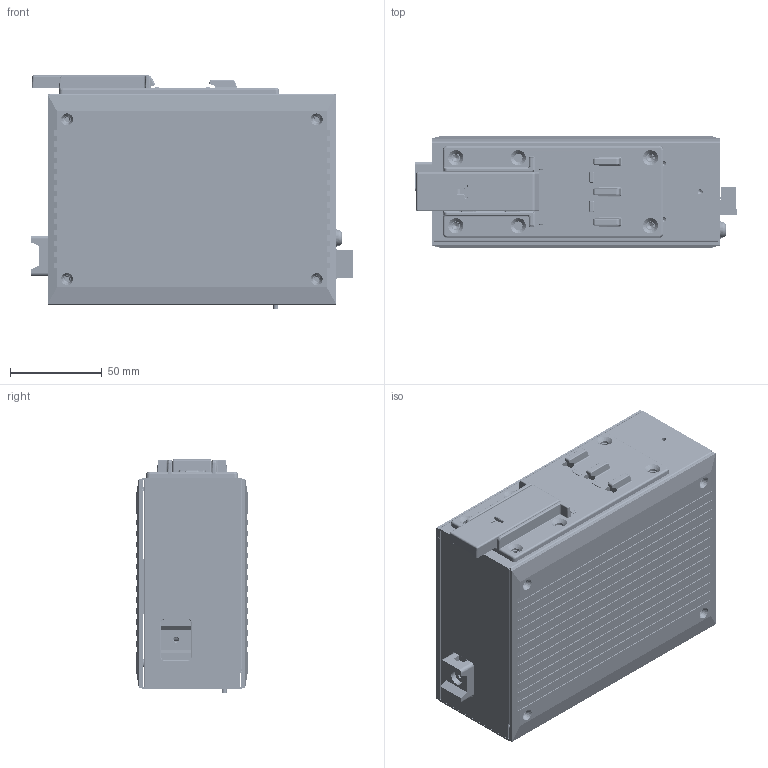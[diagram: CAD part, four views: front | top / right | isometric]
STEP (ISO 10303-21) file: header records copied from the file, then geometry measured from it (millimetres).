
FILE_DESCRIPTION((''),'2;1');
FILE_NAME('PRT0002','2017-03-07T',('Sam_Liu'),('PTC'),'PRO/ENGINEER BY PARAMETRIC TECHNOLOGY CORPORATION, 2013320','PRO/ENGINEER BY PARAMETRIC TECHNOLOGY CORPORATION, 2013320','');
FILE_SCHEMA(('AUTOMOTIVE_DESIGN { 1 0 10303 214 1 1 1 1 }'));
Products named in the file (1): PRT0002
Bounding box: 175.55 x 61 x 127.1 mm (x, y, z)
Volume: 327591.7 mm3; surface area: 279147.7 mm2
Topology: 82 solids, 87 shells, 8568 faces, 22722 edges, 14661 vertices
Faces by surface type: plane 5969, cylinder 2071, bspline 271, torus 125, cone 98, sphere 34
Entity records: 317337 total; most frequent: CARTESIAN_POINT 69428, ORIENTED_EDGE 45288, DIRECTION 42411, EDGE_CURVE 22664, VECTOR 17547, LINE 17547, VERTEX_POINT 14661, AXIS2_PLACEMENT_3D 12432
